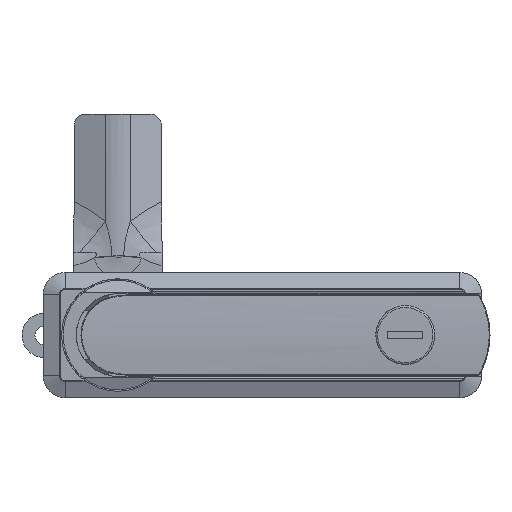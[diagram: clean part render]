
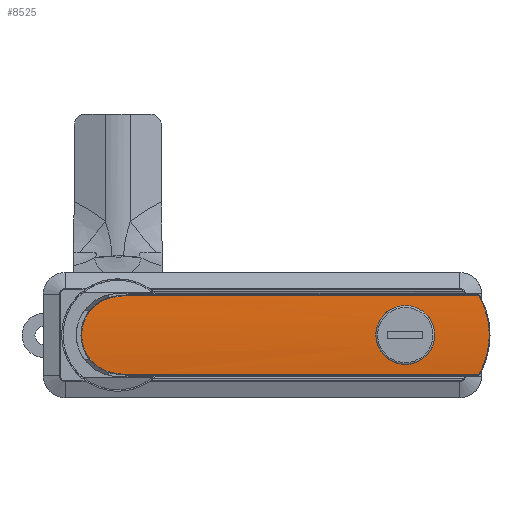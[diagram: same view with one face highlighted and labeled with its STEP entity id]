
A CAD part, top view. The second image highlights one B-rep face of the part: STEP entity #8525.
In plain terms, the highlighted cylindrical face has radius 121.25 mm (diameter 242.5 mm), a partial arc.
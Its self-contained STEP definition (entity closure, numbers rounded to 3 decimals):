
#159=ELLIPSE('',#9228,791.511,121.25);
#161=ELLIPSE('',#9232,791.511,121.25);
#187=B_SPLINE_CURVE_WITH_KNOTS('',3,(#13550,#13551,#13552,#13553,#13554),
 .UNSPECIFIED.,.F.,.F.,(4,1,4),(-2.165,-1.237,0.),
 .UNSPECIFIED.);
#190=B_SPLINE_CURVE_WITH_KNOTS('',3,(#13589,#13590,#13591,#13592),
 .UNSPECIFIED.,.F.,.F.,(4,4),(0.,0.085),.UNSPECIFIED.);
#192=B_SPLINE_CURVE_WITH_KNOTS('',3,(#13626,#13627,#13628,#13629),
 .UNSPECIFIED.,.F.,.F.,(4,4),(0.,0.328),.UNSPECIFIED.);
#193=B_SPLINE_CURVE_WITH_KNOTS('',3,(#13708,#13709,#13710,#13711,#13712,
#13713,#13714,#13715,#13716,#13717),.UNSPECIFIED.,.F.,.F.,(4,1,1,1,1,1,
1,4),(-2.956,-2.534,-2.112,-1.689,
-1.267,-0.845,-0.422,0.),
 .UNSPECIFIED.);
#196=B_SPLINE_CURVE_WITH_KNOTS('',3,(#13780,#13781,#13782,#13783),
 .UNSPECIFIED.,.F.,.F.,(4,4),(0.,0.328),.UNSPECIFIED.);
#198=B_SPLINE_CURVE_WITH_KNOTS('',3,(#13814,#13815,#13816,#13817),
 .UNSPECIFIED.,.F.,.F.,(4,4),(0.,0.085),.UNSPECIFIED.);
#199=B_SPLINE_CURVE_WITH_KNOTS('',3,(#13851,#13852,#13853,#13854,#13855,
#13856,#13857,#13858,#13859,#13860,#13861,#13862,#13863,#13864,#13865,#13866,
#13867,#13868),.UNSPECIFIED.,.F.,.F.,(4,2,2,2,2,2,2,2,4),(1.206,
1.507,1.809,2.11,2.412,2.713,
3.014,3.316,3.617),.UNSPECIFIED.);
#200=B_SPLINE_CURVE_WITH_KNOTS('',3,(#13869,#13870,#13871,#13872,#13873,
#13874,#13875,#13876,#13877,#13878,#13879,#13880,#13881,#13882,#13883,#13884,
#13885,#13886,#13887),.UNSPECIFIED.,.F.,.F.,(4,2,2,2,3,2,2,2,4),(3.617,
3.919,4.22,4.522,4.823,5.125,
5.426,5.727,6.029),.UNSPECIFIED.);
#552=LINE('',#13597,#1255);
#554=LINE('',#13788,#1257);
#1255=VECTOR('',#10748,93.726);
#1257=VECTOR('',#10772,93.726);
#1777=CYLINDRICAL_SURFACE('',#9244,121.25);
#2180=FACE_BOUND('',#2990,.T.);
#2416=FACE_OUTER_BOUND('',#2989,.T.);
#2989=EDGE_LOOP('',(#6683,#6684,#6685,#6686,#6687,#6688,#6689,#6690,#6691,
#6692));
#2990=EDGE_LOOP('',(#6693,#6694));
#4071=VERTEX_POINT('',#13547);
#4072=VERTEX_POINT('',#13549);
#4075=VERTEX_POINT('',#13587);
#4077=VERTEX_POINT('',#13595);
#4079=VERTEX_POINT('',#13624);
#4081=VERTEX_POINT('',#13651);
#4083=VERTEX_POINT('',#13706);
#4085=VERTEX_POINT('',#13749);
#4087=VERTEX_POINT('',#13778);
#4089=VERTEX_POINT('',#13786);
#4090=VERTEX_POINT('',#13849);
#4091=VERTEX_POINT('',#13850);
#5000=EDGE_CURVE('',#4071,#4072,#187,.T.);
#5005=EDGE_CURVE('',#4075,#4071,#190,.T.);
#5007=EDGE_CURVE('',#4077,#4075,#552,.T.);
#5011=EDGE_CURVE('',#4079,#4077,#192,.T.);
#5013=EDGE_CURVE('',#4081,#4079,#159,.T.);
#5016=EDGE_CURVE('',#4083,#4081,#193,.T.);
#5019=EDGE_CURVE('',#4085,#4083,#161,.T.);
#5023=EDGE_CURVE('',#4087,#4085,#196,.T.);
#5025=EDGE_CURVE('',#4089,#4087,#554,.T.);
#5028=EDGE_CURVE('',#4072,#4089,#198,.T.);
#5035=EDGE_CURVE('',#4090,#4091,#199,.T.);
#5036=EDGE_CURVE('',#4091,#4090,#200,.T.);
#6683=ORIENTED_EDGE('',*,*,#5000,.F.);
#6684=ORIENTED_EDGE('',*,*,#5005,.F.);
#6685=ORIENTED_EDGE('',*,*,#5007,.F.);
#6686=ORIENTED_EDGE('',*,*,#5011,.F.);
#6687=ORIENTED_EDGE('',*,*,#5013,.F.);
#6688=ORIENTED_EDGE('',*,*,#5016,.F.);
#6689=ORIENTED_EDGE('',*,*,#5019,.F.);
#6690=ORIENTED_EDGE('',*,*,#5023,.F.);
#6691=ORIENTED_EDGE('',*,*,#5025,.F.);
#6692=ORIENTED_EDGE('',*,*,#5028,.F.);
#6693=ORIENTED_EDGE('',*,*,#5035,.T.);
#6694=ORIENTED_EDGE('',*,*,#5036,.T.);
#8525=ADVANCED_FACE('',(#2416,#2180),#1777,.T.);
#9228=AXIS2_PLACEMENT_3D('',#13653,#10754,#10755);
#9232=AXIS2_PLACEMENT_3D('',#13751,#10762,#10763);
#9244=AXIS2_PLACEMENT_3D('',#13848,#10791,#10792);
#10748=DIRECTION('',(0.,0.,-1.));
#10754=DIRECTION('center_axis',(-0.988,0.,
0.153));
#10755=DIRECTION('ref_axis',(-0.153,0.,-0.988));
#10762=DIRECTION('center_axis',(0.988,0.,
0.153));
#10763=DIRECTION('ref_axis',(0.153,0.,-0.988));
#10772=DIRECTION('',(0.,0.,1.));
#10791=DIRECTION('center_axis',(0.,0.,1.));
#10792=DIRECTION('ref_axis',(-0.091,0.996,0.));
#13547=CARTESIAN_POINT('',(-10.376,-0.445,-108.124));
#13549=CARTESIAN_POINT('',(10.376,-0.445,-108.124));
#13550=CARTESIAN_POINT('Ctrl Pts',(-10.376,-0.445,
-108.124));
#13551=CARTESIAN_POINT('Ctrl Pts',(-7.673,-0.213,
-109.618));
#13552=CARTESIAN_POINT('Ctrl Pts',(-0.582,0.174,
-111.732));
#13553=CARTESIAN_POINT('Ctrl Pts',(6.772,-0.135,
-110.116));
#13554=CARTESIAN_POINT('Ctrl Pts',(10.376,-0.445,
-108.124));
#13587=CARTESIAN_POINT('',(-10.788,-0.481,-107.424));
#13589=CARTESIAN_POINT('Ctrl Pts',(-10.788,-0.481,
-107.424));
#13590=CARTESIAN_POINT('Ctrl Pts',(-10.788,-0.481,
-107.708));
#13591=CARTESIAN_POINT('Ctrl Pts',(-10.624,-0.466,
-107.987));
#13592=CARTESIAN_POINT('Ctrl Pts',(-10.376,-0.445,
-108.124));
#13595=CARTESIAN_POINT('',(-10.788,-0.481,-13.698));
#13597=CARTESIAN_POINT('',(-10.788,-0.481,-111.));
#13624=CARTESIAN_POINT('',(-10.537,-0.459,-10.432));
#13626=CARTESIAN_POINT('Ctrl Pts',(-10.537,-0.459,
-10.432));
#13627=CARTESIAN_POINT('Ctrl Pts',(-10.704,-0.473,
-11.512));
#13628=CARTESIAN_POINT('Ctrl Pts',(-10.788,-0.481,
-12.605));
#13629=CARTESIAN_POINT('Ctrl Pts',(-10.788,-0.481,
-13.698));
#13651=CARTESIAN_POINT('',(-10.319,-0.44,-9.031));
#13653=CARTESIAN_POINT('Origin',(0.,-121.25,57.538));
#13706=CARTESIAN_POINT('',(10.319,-0.44,-9.031));
#13708=CARTESIAN_POINT('Ctrl Pts',(10.319,-0.44,
-9.031));
#13709=CARTESIAN_POINT('Ctrl Pts',(10.104,-0.422,
-7.639));
#13710=CARTESIAN_POINT('Ctrl Pts',(9.1,-0.335,
-4.947));
#13711=CARTESIAN_POINT('Ctrl Pts',(6.127,-0.137,-1.828));
#13712=CARTESIAN_POINT('Ctrl Pts',(2.16,0.006,
-0.13));
#13713=CARTESIAN_POINT('Ctrl Pts',(-2.159,0.006,
-0.129));
#13714=CARTESIAN_POINT('Ctrl Pts',(-6.126,-0.138,
-1.828));
#13715=CARTESIAN_POINT('Ctrl Pts',(-9.1,-0.335,
-4.947));
#13716=CARTESIAN_POINT('Ctrl Pts',(-10.104,-0.422,
-7.639));
#13717=CARTESIAN_POINT('Ctrl Pts',(-10.319,-0.44,
-9.031));
#13749=CARTESIAN_POINT('',(10.537,-0.459,-10.432));
#13751=CARTESIAN_POINT('Origin',(0.,-121.25,57.538));
#13778=CARTESIAN_POINT('',(10.788,-0.481,-13.698));
#13780=CARTESIAN_POINT('Ctrl Pts',(10.788,-0.481,
-13.698));
#13781=CARTESIAN_POINT('Ctrl Pts',(10.788,-0.481,
-12.605));
#13782=CARTESIAN_POINT('Ctrl Pts',(10.704,-0.473,-11.512));
#13783=CARTESIAN_POINT('Ctrl Pts',(10.537,-0.459,
-10.432));
#13786=CARTESIAN_POINT('',(10.788,-0.481,-107.424));
#13788=CARTESIAN_POINT('',(10.788,-0.481,-111.));
#13814=CARTESIAN_POINT('Ctrl Pts',(10.376,-0.445,
-108.124));
#13815=CARTESIAN_POINT('Ctrl Pts',(10.624,-0.466,
-107.987));
#13816=CARTESIAN_POINT('Ctrl Pts',(10.788,-0.481,
-107.708));
#13817=CARTESIAN_POINT('Ctrl Pts',(10.788,-0.481,
-107.424));
#13848=CARTESIAN_POINT('Origin',(0.,-121.25,-111.));
#13849=CARTESIAN_POINT('',(0.,0.,-96.));
#13850=CARTESIAN_POINT('',(0.,0.,-80.));
#13851=CARTESIAN_POINT('Ctrl Pts',(0.,0.,
-96.));
#13852=CARTESIAN_POINT('Ctrl Pts',(1.005,0.,
-96.));
#13853=CARTESIAN_POINT('Ctrl Pts',(2.076,-0.014,
-95.799));
#13854=CARTESIAN_POINT('Ctrl Pts',(4.047,-0.064,
-94.983));
#13855=CARTESIAN_POINT('Ctrl Pts',(4.947,-0.099,
-94.367));
#13856=CARTESIAN_POINT('Ctrl Pts',(6.367,-0.165,
-92.947));
#13857=CARTESIAN_POINT('Ctrl Pts',(6.983,-0.201,
-92.047));
#13858=CARTESIAN_POINT('Ctrl Pts',(7.799,-0.25,
-90.076));
#13859=CARTESIAN_POINT('Ctrl Pts',(8.,-0.264,-89.005));
#13860=CARTESIAN_POINT('Ctrl Pts',(8.,-0.264,-86.995));
#13861=CARTESIAN_POINT('Ctrl Pts',(7.799,-0.25,
-85.924));
#13862=CARTESIAN_POINT('Ctrl Pts',(6.983,-0.201,
-83.953));
#13863=CARTESIAN_POINT('Ctrl Pts',(6.367,-0.165,
-83.053));
#13864=CARTESIAN_POINT('Ctrl Pts',(4.947,-0.099,
-81.633));
#13865=CARTESIAN_POINT('Ctrl Pts',(4.047,-0.064,
-81.017));
#13866=CARTESIAN_POINT('Ctrl Pts',(2.076,-0.014,
-80.201));
#13867=CARTESIAN_POINT('Ctrl Pts',(1.005,0.,
-80.));
#13868=CARTESIAN_POINT('Ctrl Pts',(0.,0.,
-80.));
#13869=CARTESIAN_POINT('Ctrl Pts',(0.,0.,
-80.));
#13870=CARTESIAN_POINT('Ctrl Pts',(-1.005,0.,
-80.));
#13871=CARTESIAN_POINT('Ctrl Pts',(-2.076,-0.014,
-80.201));
#13872=CARTESIAN_POINT('Ctrl Pts',(-4.047,-0.064,
-81.017));
#13873=CARTESIAN_POINT('Ctrl Pts',(-4.947,-0.099,
-81.633));
#13874=CARTESIAN_POINT('Ctrl Pts',(-6.367,-0.165,
-83.053));
#13875=CARTESIAN_POINT('Ctrl Pts',(-6.983,-0.201,
-83.953));
#13876=CARTESIAN_POINT('Ctrl Pts',(-7.799,-0.25,
-85.924));
#13877=CARTESIAN_POINT('Ctrl Pts',(-8.,-0.264,-86.995));
#13878=CARTESIAN_POINT('Ctrl Pts',(-8.,-0.264,-88.));
#13879=CARTESIAN_POINT('Ctrl Pts',(-8.,-0.264,-89.005));
#13880=CARTESIAN_POINT('Ctrl Pts',(-7.799,-0.25,
-90.076));
#13881=CARTESIAN_POINT('Ctrl Pts',(-6.983,-0.201,
-92.047));
#13882=CARTESIAN_POINT('Ctrl Pts',(-6.367,-0.165,
-92.947));
#13883=CARTESIAN_POINT('Ctrl Pts',(-4.947,-0.099,
-94.367));
#13884=CARTESIAN_POINT('Ctrl Pts',(-4.047,-0.064,
-94.983));
#13885=CARTESIAN_POINT('Ctrl Pts',(-2.076,-0.014,
-95.799));
#13886=CARTESIAN_POINT('Ctrl Pts',(-1.005,0.,
-96.));
#13887=CARTESIAN_POINT('Ctrl Pts',(0.,0.,
-96.));
